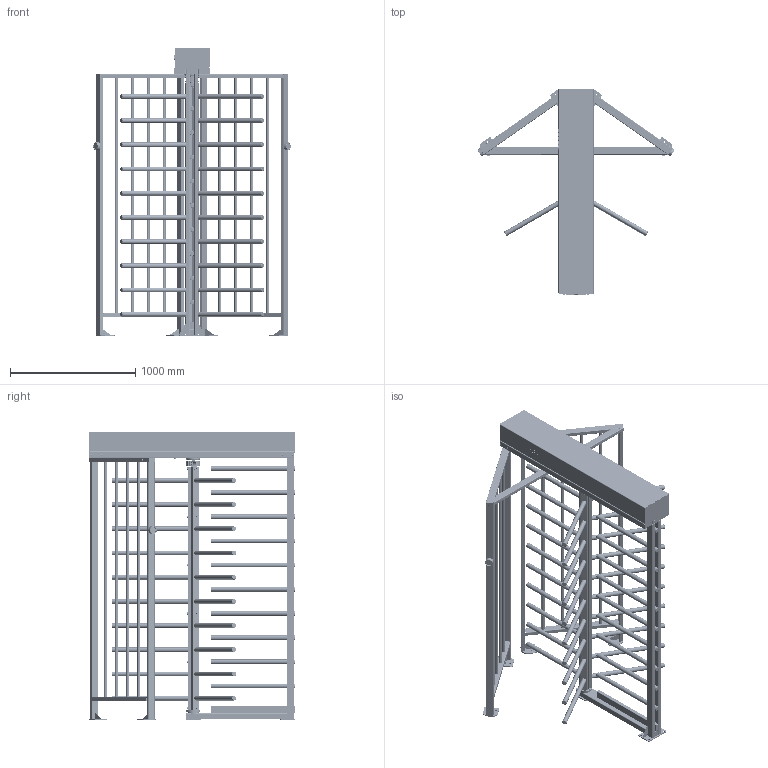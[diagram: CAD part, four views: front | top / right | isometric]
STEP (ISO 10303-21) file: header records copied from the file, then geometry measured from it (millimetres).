
FILE_DESCRIPTION(/* description */ ('Unknown'),/* implementation_level */ '2;1');
FILE_NAME(/* name */ 'TRD-16.1_для STEP',/* time_stamp */ '2021-11-23T11:43:43+03:00',/* author */ ('Unknown'),/* organization */ ('Unknown'),/* preprocessor_version */ 'ST-DEVELOPER v18.1',/* originating_system */ 'Solid Edge',/* authorisation */ 'Unknown');
FILE_SCHEMA (('CONFIG_CONTROL_DESIGN'));
Length unit declared in the file: millimetre
Products named in the file (83): TRD-16.1_äëÿ STEP; RTD-16.1.200.00 Áàëêà ïðèâîäà òóðíèêåòà RTD-16.1-1 è RTD-16.1-2_oa_0; RTD-16.1.222.00 忺謤僔 摳鍆醂oa_1; RTD-16.1.220.02 Ñòåíêà òîðöîâàÿ_r2; RTD-16.1.222.01 扻豵鵨; RTD-16.1.280.00 体踵龛珈 桉镱腠栩咫_oa_2; RTD-12.1.601.03 C蠉罻燲r4; RTD-15.482.00 Óçåë âðàùåíèÿ_oa_3; RTD-15.482.01 轉螒r3; RTD-16.1.253.00 青祛阓oa_4; 青祛阓鲤祚蝠铐鉥50822_oa_5; Çàìîê Àðìñòðîíã 50822_êîðïóñ; RTD-16.1.253.00-01 青祛阓oa_6; 青祛阓鲤祚蝠铐鉥50822_oa_7; RTD-20.250.00 鍛鍧 瀁儊瞂襚醂oa_8; RTD-20.250.04 扰鵽; RTD-16.1.200.01 青汶篪赅; Çàãëóøêà 62MP0625 (d îòâ. 16, ÷åðíàÿ); RTD-16.1.211.00 Êðûøêà ñ ëîãîòèïîì_oa_9; RTD-16.1.210.00 署赅; RTD-16.1.210.01 扻豵鵨; RTD-16.1.210.02 青汶篪赅; RTD-16.1.210.03 赶鎀鍧; RTD-15.366.01 Áóêâû ëîãîòèïà. Êîìïëåêò; RTD-15.366.02 Ëîãîòèï êëååâîé. Êîìïëåêò; Çàãëóøêà 10 Ò×Ý_ñèíÿÿ; RTD-16.1.140.00 Ñòîéêà ñ ïðåãðàæäàþùèìè ïëàíêàìè_oa_10; RTD-16.1.140.05 扻豂塺r2; RTD-16.1.140.04 Ïëàñòèíà îïîðíàÿ; RTD-16.1.140.09 砑僔蠂縺_r1; RTD-16.1.140.08 砑僔蠂縺; RTD-16.1.140.07 咍嚦; RTD-16.1.140.01 栺鍣罻; RTD-16.1.140.06 醜鍆趌r3; RTD-16.1.140.02 砑鳧罻; RTD-16.1.140.03 砑鳧罻; RTD-16.1.120.06 ﾐ裔; RTD-16.1.141.00 鎚蠉瞃趌oa_11; RTD-16.1.141.01 咍嚦; Çàãëóøêà 62ÌÐ0687 (d îòâ. 17,4, ÷åðíàÿ)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
Assembly tree (271 placements, depth 6):
  TRD-16.1_äëÿ STEP
    RTD-16.1.200.00 Áàëêà ïðèâîäà òóðíèêåòà RTD-16.1-1 è RTD-16.1-2_oa_0
      RTD-16.1.222.00 忺謤僔 摳鍆醂oa_1
        RTD-16.1.220.02 Ñòåíêà òîðöîâàÿ_r2  x2
        RTD-16.1.222.01 扻豵鵨
      RTD-16.1.280.00 体踵龛珈 桉镱腠栩咫_oa_2
        RTD-12.1.601.03 C蠉罻燲r4
        RTD-15.482.00 Óçåë âðàùåíèÿ_oa_3
          RTD-15.482.01 轉螒r3
        RTD-16.1.253.00 青祛阓oa_4
          青祛阓鲤祚蝠铐鉥50822_oa_5
            Çàìîê Àðìñòðîíã 50822_êîðïóñ
        RTD-16.1.253.00-01 青祛阓oa_6
          青祛阓鲤祚蝠铐鉥50822_oa_7
            Çàìîê Àðìñòðîíã 50822_êîðïóñ
      RTD-20.250.00 鍛鍧 瀁儊瞂襚醂oa_8
        RTD-20.250.04 扰鵽  x2
      RTD-16.1.200.01 青汶篪赅  x2
      Çàãëóøêà 62MP0625 (d îòâ. 16, ÷åðíàÿ)  x6
      RTD-16.1.211.00 Êðûøêà ñ ëîãîòèïîì_oa_9
        RTD-16.1.210.00 署赅
          RTD-16.1.210.01 扻豵鵨
          RTD-16.1.210.02 青汶篪赅  x2
          RTD-16.1.210.03 赶鎀鍧  x2
        RTD-15.366.01 Áóêâû ëîãîòèïà. Êîìïëåêò  x2
        RTD-15.366.02 Ëîãîòèï êëååâîé. Êîìïëåêò  x2
      Çàãëóøêà 10 Ò×Ý_ñèíÿÿ  x8
    RTD-16.1.140.00 Ñòîéêà ñ ïðåãðàæäàþùèìè ïëàíêàìè_oa_10
      RTD-16.1.140.05 扻豂塺r2
      RTD-16.1.140.04 Ïëàñòèíà îïîðíàÿ
      RTD-16.1.140.09 砑僔蠂縺_r1
      RTD-16.1.140.08 砑僔蠂縺
      RTD-16.1.140.07 咍嚦
      RTD-16.1.140.01 栺鍣罻  x2
      RTD-16.1.140.06 醜鍆趌r3
      RTD-16.1.140.02 砑鳧罻  x9
      RTD-16.1.140.03 砑鳧罻
      RTD-16.1.120.06 ﾐ裔  x2
      RTD-16.1.141.00 鎚蠉瞃趌oa_11
        RTD-16.1.141.01 咍嚦
      Çàãëóøêà 62ÌÐ0687 (d îòâ. 17,4, ÷åðíàÿ)  x2
      Çàãëóøêà 60õ30 (÷åðí.)  x2
      Çàãëóøêà 38 ILTB_÷åðíàÿ  x20
    嵑殧趌8_DIN_127  x4
    RTD-16.1.120.00 Ôîðìèðîâàòåëü â ñáîðå_oa_12
      RTD-16.1.121.00 Ôîðìèðîâàòåëü
        RTD-16.1.120.01 Ñòîéêà ïåðåäíÿÿ_r2
        RTD-16.1.120.04 ﾇ瑜鸙淲湜蘋r3  x4
        RTD-16.1.120.02 Ñòîéêà çàäíÿÿ
        RTD-16.1.120.03 Áàëêà íèæíÿÿ
        RTD-16.1.120.06 ﾐ裔  x2
        RTD-16.1.120.05 Ïëàñòèíà îïîðíàÿ  x2
        RTD-16.1.122.00 Áàëêà ñî øïèëüêîé
          RTD-16.1.121.02 仫桦郷r4
          RTD-16.1.121.01 Áàëêà âåðõíÿÿ_r3
      Çàãëóøêà 60õ30 (÷åðí.)
      RTD-16.1.270.00 鍛鍧 鴈儰罻灕醂oa_13
        RTD-16.1.270.01 扻豵鵨_r1
        RTD-15.257.04 栺樏鋋_r1
        RTD-16.1.259.00 Ïëàòà èíäèêàöèè â ñáîðå_oa_14
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Bounding box: 1574.96 x 1651.29 x 2305.25 mm (x, y, z)
Volume: 24639749.1 mm3; surface area: 21050997.4 mm2
Topology: 322 solids, 322 shells, 4428 faces, 9903 edges, 6456 vertices
Faces by surface type: plane 2286, cylinder 1654, torus 181, bspline 168, cone 137, sphere 2
Full cylindrical faces by diameter (mm): 1.2 x8, 2.4 x50, 3.242 x8, 4 x8, 4.1 x2, 4.2 x2, 4.3 x8, 4.917 x8, 5 x32, 6 x22, 6.466 x17, 6.647 x33, 7 x22, 8 x53, 9 x14, 9.3 x8, 10 x58, 11 x12, 12 x4, 13 x63, 15 x14, 16 x92, 17 x2, 18 x50, 19 x3, 19.8 x2, 20 x8, 21 x2, 24 x4, 24.9 x16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
Entity records: 58654 total; most frequent: CARTESIAN_POINT 13493, DIRECTION 8577, ORIENTED_EDGE 7506, EDGE_CURVE 3753, AXIS2_PLACEMENT_3D 3168, FACE_BOUND 2756, EDGE_LOOP 2743, VERTEX_POINT 2675
